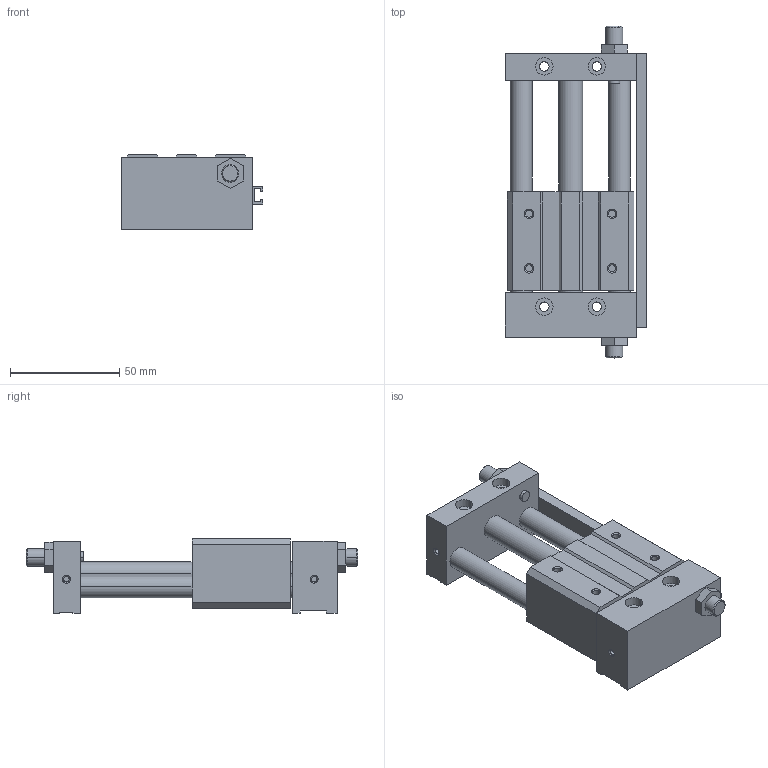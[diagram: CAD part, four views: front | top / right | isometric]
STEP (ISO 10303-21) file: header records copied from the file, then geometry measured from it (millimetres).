
FILE_DESCRIPTION((''),'2;1');
FILE_NAME('C:\Documents and Settings\Administrator\桌面\GYS\GYS10\GYSR10X50.stp','2012-03-05T10:11:20',('Administrator'),(''),'Autodesk Inventor 8','Autodesk Inventor 8','');
FILE_SCHEMA(('AUTOMOTIVE_DESIGN { 1 0 10303 214 1 1 1 1 }'));
Length unit declared in the file: millimetre
Products named in the file (3): GYSR10X50; GYS10X50; GYS10160X50
Assembly tree (2 placements, depth 2):
  GYSR10X50
    GYS10X50
    GYS10160X50
Bounding box: 65 x 152 x 34 mm (x, y, z)
Volume: 158776.9 mm3; surface area: 37896.1 mm2
Topology: 2 solids, 2 shells, 193 faces, 462 edges, 296 vertices
Faces by surface type: plane 97, cylinder 58, cone 32, bspline 6
Entity records: 5756 total; most frequent: CARTESIAN_POINT 1030, DIRECTION 1006, ORIENTED_EDGE 924, EDGE_CURVE 462, AXIS2_PLACEMENT_3D 352, VECTOR 302, LINE 302, VERTEX_POINT 296
